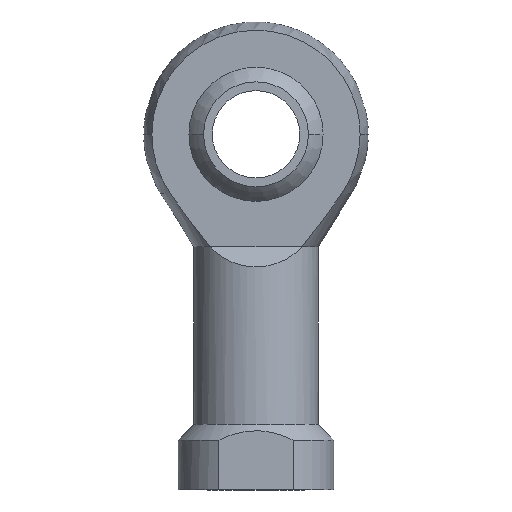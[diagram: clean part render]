
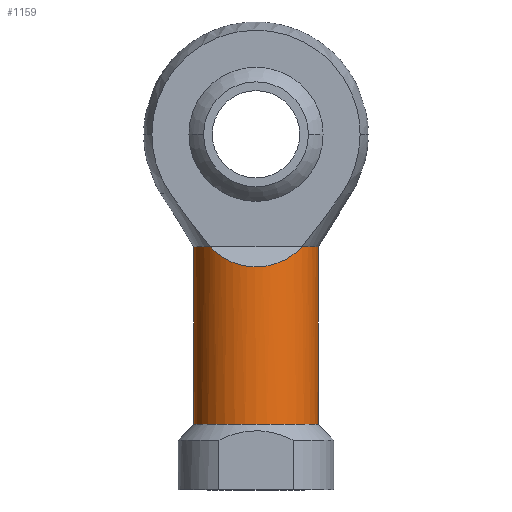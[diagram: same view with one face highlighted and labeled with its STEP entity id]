
A CAD part, front view. The second image highlights one B-rep face of the part: STEP entity #1159.
In plain terms, the highlighted cylindrical face has radius 10 mm (diameter 20 mm), a partial arc.
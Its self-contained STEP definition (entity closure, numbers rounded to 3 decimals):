
#6 = CARTESIAN_POINT ( 'NONE',  ( 10., 0., 10.5 ) ) ;
#18 = ORIENTED_EDGE ( 'NONE', *, *, #832, .T. ) ;
#31 = CARTESIAN_POINT ( 'NONE',  ( -10., 0., 24.75 ) ) ;
#49 = DIRECTION ( 'NONE',  ( 1., 0., 0. ) ) ;
#51 = VERTEX_POINT ( 'NONE', #6 ) ;
#72 =( BOUNDED_CURVE ( )  B_SPLINE_CURVE ( 3, ( #940, #365, #465, #268 ),
 .UNSPECIFIED., .F., .T. ) 
 B_SPLINE_CURVE_WITH_KNOTS ( ( 4, 4 ),
 ( 2.312, 3.971 ),
 .UNSPECIFIED. ) 
 CURVE ( )  GEOMETRIC_REPRESENTATION_ITEM ( )  RATIONAL_B_SPLINE_CURVE ( ( 1., 0.783, 0.783, 1. ) ) 
 REPRESENTATION_ITEM ( '' )  );
#90 = CARTESIAN_POINT ( 'NONE',  ( 0., 0., 39. ) ) ;
#108 = AXIS2_PLACEMENT_3D ( 'NONE', #90, #1157, #395 ) ;
#117 = CIRCLE ( 'NONE', #472, 10. ) ;
#119 = DIRECTION ( 'NONE',  ( 0., 0., 1. ) ) ;
#128 = DIRECTION ( 'NONE',  ( 0., 0., 1. ) ) ;
#153 = ORIENTED_EDGE ( 'NONE', *, *, #333, .T. ) ;
#176 = VERTEX_POINT ( 'NONE', #1049 ) ;
#195 = CARTESIAN_POINT ( 'NONE',  ( -7.378, -6.75, 39. ) ) ;
#249 = CARTESIAN_POINT ( 'NONE',  ( 7.378, -6.75, 39. ) ) ;
#261 = DIRECTION ( 'NONE',  ( 1., 0., 0. ) ) ;
#268 = CARTESIAN_POINT ( 'NONE',  ( -7.378, -6.75, 39. ) ) ;
#300 = ORIENTED_EDGE ( 'NONE', *, *, #913, .T. ) ;
#333 = EDGE_CURVE ( 'NONE', #51, #176, #965, .T. ) ;
#365 = CARTESIAN_POINT ( 'NONE',  ( 3.14, -11.383, 34.367 ) ) ;
#395 = DIRECTION ( 'NONE',  ( 1., 0., 0. ) ) ;
#419 = VERTEX_POINT ( 'NONE', #420 ) ;
#420 = CARTESIAN_POINT ( 'NONE',  ( -10., 0., 39. ) ) ;
#465 = CARTESIAN_POINT ( 'NONE',  ( -3.14, -11.383, 34.367 ) ) ;
#472 = AXIS2_PLACEMENT_3D ( 'NONE', #1160, #762, #961 ) ;
#473 = LINE ( 'NONE', #31, #983 ) ;
#540 = VERTEX_POINT ( 'NONE', #195 ) ;
#547 = ORIENTED_EDGE ( 'NONE', *, *, #934, .T. ) ;
#576 = AXIS2_PLACEMENT_3D ( 'NONE', #836, #733, #261 ) ;
#588 = CYLINDRICAL_SURFACE ( 'NONE', #1220, 10. ) ;
#594 = VERTEX_POINT ( 'NONE', #249 ) ;
#654 = EDGE_CURVE ( 'NONE', #594, #540, #72, .T. ) ;
#711 = VECTOR ( 'NONE', #1162, 1000. ) ;
#733 = DIRECTION ( 'NONE',  ( 0., 0., -1. ) ) ;
#762 = DIRECTION ( 'NONE',  ( 0., 0., 1. ) ) ;
#768 = CIRCLE ( 'NONE', #108, 10. ) ;
#785 = EDGE_LOOP ( 'NONE', ( #1230, #547, #153, #18, #884, #300 ) ) ;
#789 = CARTESIAN_POINT ( 'NONE',  ( -10., 0., 10.5 ) ) ;
#832 = EDGE_CURVE ( 'NONE', #176, #594, #921, .T. ) ;
#836 = CARTESIAN_POINT ( 'NONE',  ( 0., 0., 39. ) ) ;
#884 = ORIENTED_EDGE ( 'NONE', *, *, #654, .T. ) ;
#913 = EDGE_CURVE ( 'NONE', #540, #419, #768, .T. ) ;
#921 = CIRCLE ( 'NONE', #576, 10. ) ;
#934 = EDGE_CURVE ( 'NONE', #1186, #51, #117, .T. ) ;
#940 = CARTESIAN_POINT ( 'NONE',  ( 7.378, -6.75, 39. ) ) ;
#961 = DIRECTION ( 'NONE',  ( 1., 0., 0. ) ) ;
#965 = LINE ( 'NONE', #1073, #711 ) ;
#983 = VECTOR ( 'NONE', #119, 1000. ) ;
#994 = CARTESIAN_POINT ( 'NONE',  ( 0., 0., 24.75 ) ) ;
#1032 = EDGE_CURVE ( 'NONE', #1186, #419, #473, .T. ) ;
#1049 = CARTESIAN_POINT ( 'NONE',  ( 10., 0., 39. ) ) ;
#1073 = CARTESIAN_POINT ( 'NONE',  ( 10., 0., 24.75 ) ) ;
#1157 = DIRECTION ( 'NONE',  ( 0., 0., -1. ) ) ;
#1159 = ADVANCED_FACE ( 'NONE', ( #1193 ), #588, .T. ) ;
#1160 = CARTESIAN_POINT ( 'NONE',  ( 0., 0., 10.5 ) ) ;
#1162 = DIRECTION ( 'NONE',  ( 0., 0., 1. ) ) ;
#1186 = VERTEX_POINT ( 'NONE', #789 ) ;
#1193 = FACE_OUTER_BOUND ( 'NONE', #785, .T. ) ;
#1220 = AXIS2_PLACEMENT_3D ( 'NONE', #994, #128, #49 ) ;
#1230 = ORIENTED_EDGE ( 'NONE', *, *, #1032, .F. ) ;
